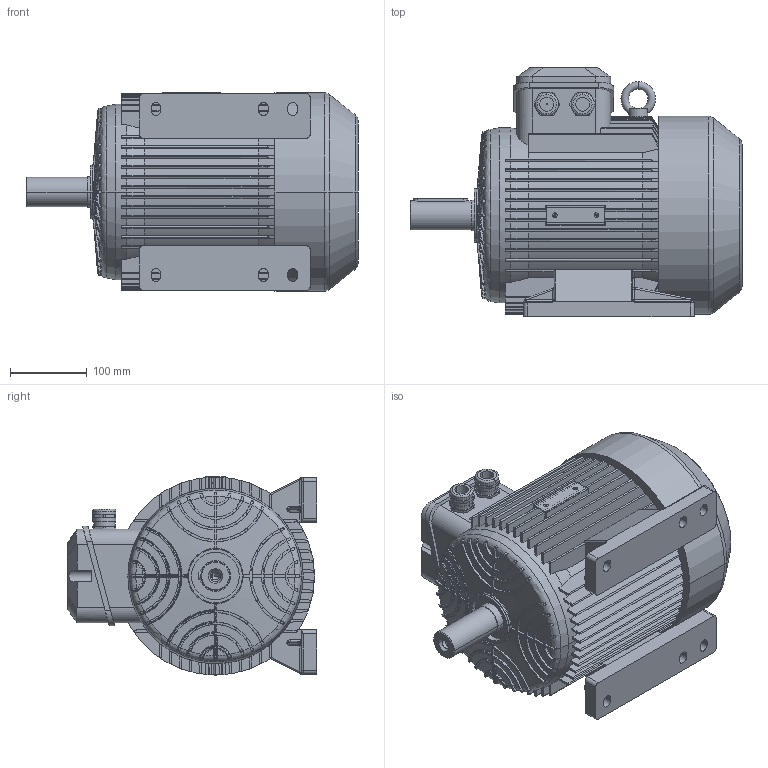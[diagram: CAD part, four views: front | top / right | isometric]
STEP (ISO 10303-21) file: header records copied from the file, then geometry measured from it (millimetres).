
FILE_DESCRIPTION (( 'STEP AP214' ), '1' );
FILE_NAME ('MAP132S6A IM1041.STEP', '2021-03-08T07:31:47', ( '' ), ( '' ), 'SwSTEP 2.0', 'SolidWorks 2018', '' );
FILE_SCHEMA (( 'AUTOMOTIVE_DESIGN' ));
Length unit declared in the file: millimetre
Products named in the file (1): MAP132S6A IM1041
Bounding box: 432 x 325 x 258 mm (x, y, z)
Volume: 16094972.9 mm3; surface area: 1068337.5 mm2
Topology: 1 solids, 6 shells, 1610 faces, 4387 edges, 2820 vertices
Faces by surface type: plane 540, cylinder 424, cone 306, bspline 279, torus 51, sphere 10
Entity records: 76864 total; most frequent: CARTESIAN_POINT 39508, ORIENTED_EDGE 8750, DIRECTION 6620, EDGE_CURVE 4375, VERTEX_POINT 2818, AXIS2_PLACEMENT_3D 2467, LINE 1686, VECTOR 1686
